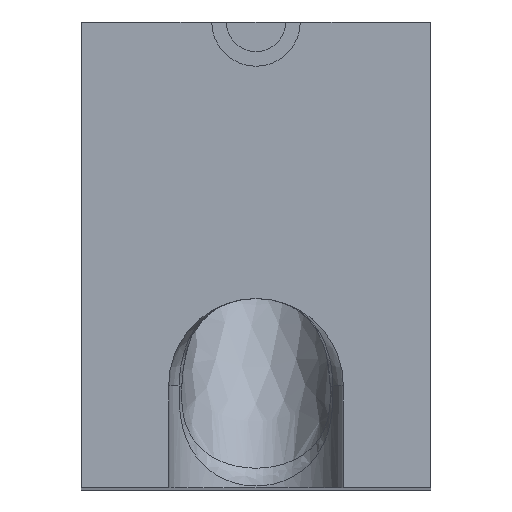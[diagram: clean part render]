
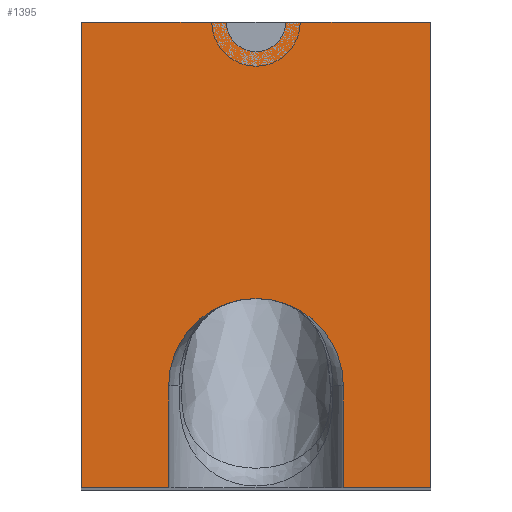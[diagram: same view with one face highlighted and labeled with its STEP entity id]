
A CAD part, top view. The second image highlights one B-rep face of the part: STEP entity #1395.
In plain terms, the highlighted planar face has unit normal (0, 0, 1).
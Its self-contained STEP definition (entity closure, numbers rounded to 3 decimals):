
#5=DIRECTION('',(0.,1.,0.));
#6=VECTOR('',#5,1.75);
#7=CARTESIAN_POINT('',(1.5,-8.,0.6));
#8=LINE('',#7,#6);
#9=CARTESIAN_POINT('',(0.,-6.25,0.6));
#10=DIRECTION('',(0.,0.,1.));
#11=DIRECTION('',(1.,0.,0.));
#12=AXIS2_PLACEMENT_3D('',#9,#10,#11);
#14=DIRECTION('',(-1.,0.,0.));
#15=VECTOR('',#14,1.5);
#16=CARTESIAN_POINT('',(-1.5,-8.,0.6));
#17=LINE('',#16,#15);
#18=DIRECTION('',(0.,1.,0.));
#19=VECTOR('',#18,8.);
#20=CARTESIAN_POINT('',(-3.,-8.,0.6));
#21=LINE('',#20,#19);
#22=DIRECTION('',(1.,0.,0.));
#23=VECTOR('',#22,2.49);
#24=CARTESIAN_POINT('',(-3.,0.,0.6));
#25=LINE('',#24,#23);
#26=CARTESIAN_POINT('',(0.,0.,0.6));
#27=DIRECTION('',(0.,0.,1.));
#28=DIRECTION('',(-1.,0.,0.));
#29=AXIS2_PLACEMENT_3D('',#26,#27,#28);
#31=DIRECTION('',(1.,0.,0.));
#32=VECTOR('',#31,2.49);
#33=CARTESIAN_POINT('',(0.51,0.,0.6));
#34=LINE('',#33,#32);
#35=DIRECTION('',(0.,-1.,0.));
#36=VECTOR('',#35,8.);
#37=CARTESIAN_POINT('',(3.,0.,0.6));
#38=LINE('',#37,#36);
#39=DIRECTION('',(-1.,0.,0.));
#40=VECTOR('',#39,1.5);
#41=CARTESIAN_POINT('',(3.,-8.,0.6));
#42=LINE('',#41,#40);
#1182=DIRECTION('',(0.,1.,0.));
#1183=VECTOR('',#1182,1.75);
#1184=CARTESIAN_POINT('',(-1.5,-8.,0.6));
#1185=LINE('',#1184,#1183);
#1186=CARTESIAN_POINT('',(1.5,-8.,0.6));
#1187=CARTESIAN_POINT('',(1.5,-6.25,0.6));
#1188=VERTEX_POINT('',#1186);
#1189=VERTEX_POINT('',#1187);
#1194=CARTESIAN_POINT('',(-1.5,-6.25,0.6));
#1195=VERTEX_POINT('',#1194);
#1196=CARTESIAN_POINT('',(-1.5,-8.,0.6));
#1197=VERTEX_POINT('',#1196);
#1198=CARTESIAN_POINT('',(-3.,-8.,0.6));
#1199=VERTEX_POINT('',#1198);
#1200=CARTESIAN_POINT('',(-3.,0.,0.6));
#1201=VERTEX_POINT('',#1200);
#1202=CARTESIAN_POINT('',(-0.51,0.,0.6));
#1203=VERTEX_POINT('',#1202);
#1204=CARTESIAN_POINT('',(0.51,0.,0.6));
#1205=VERTEX_POINT('',#1204);
#1206=CARTESIAN_POINT('',(3.,0.,0.6));
#1207=VERTEX_POINT('',#1206);
#1208=CARTESIAN_POINT('',(3.,-8.,0.6));
#1209=VERTEX_POINT('',#1208);
#1369=CARTESIAN_POINT('',(-4.25,-4.,0.6));
#1370=DIRECTION('',(0.,0.,1.));
#1371=DIRECTION('',(0.,-1.,0.));
#1372=AXIS2_PLACEMENT_3D('',#1369,#1370,#1371);
#1373=PLANE('',#1372);
#1374=ORIENTED_EDGE('',*,*,#1358,.T.);
#1376=ORIENTED_EDGE('',*,*,#1375,.T.);
#1378=ORIENTED_EDGE('',*,*,#1377,.F.);
#1380=ORIENTED_EDGE('',*,*,#1379,.T.);
#1382=ORIENTED_EDGE('',*,*,#1381,.T.);
#1384=ORIENTED_EDGE('',*,*,#1383,.T.);
#1386=ORIENTED_EDGE('',*,*,#1385,.T.);
#1388=ORIENTED_EDGE('',*,*,#1387,.T.);
#1390=ORIENTED_EDGE('',*,*,#1389,.T.);
#1392=ORIENTED_EDGE('',*,*,#1391,.T.);
#1393=EDGE_LOOP('',(#1374,#1376,#1378,#1380,#1382,#1384,#1386,#1388,#1390,
#1392));
#1394=FACE_OUTER_BOUND('',#1393,.F.);
#1395=ADVANCED_FACE('',(#1394),#1373,.T.);
#13=CIRCLE('',#12,1.5);
#30=CIRCLE('',#29,0.51);
#1358=EDGE_CURVE('',#1188,#1189,#8,.T.);
#1375=EDGE_CURVE('',#1189,#1195,#13,.T.);
#1377=EDGE_CURVE('',#1197,#1195,#1185,.T.);
#1379=EDGE_CURVE('',#1197,#1199,#17,.T.);
#1381=EDGE_CURVE('',#1199,#1201,#21,.T.);
#1383=EDGE_CURVE('',#1201,#1203,#25,.T.);
#1385=EDGE_CURVE('',#1203,#1205,#30,.T.);
#1387=EDGE_CURVE('',#1205,#1207,#34,.T.);
#1389=EDGE_CURVE('',#1207,#1209,#38,.T.);
#1391=EDGE_CURVE('',#1209,#1188,#42,.T.);
